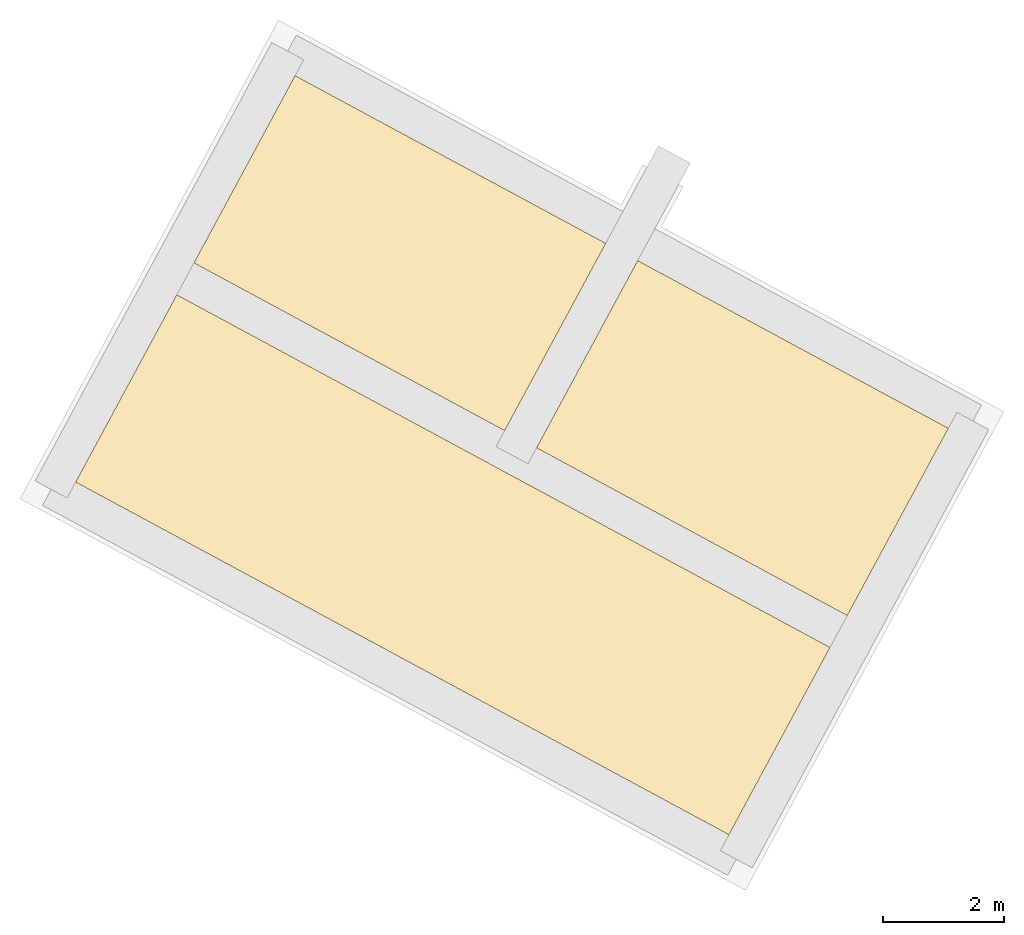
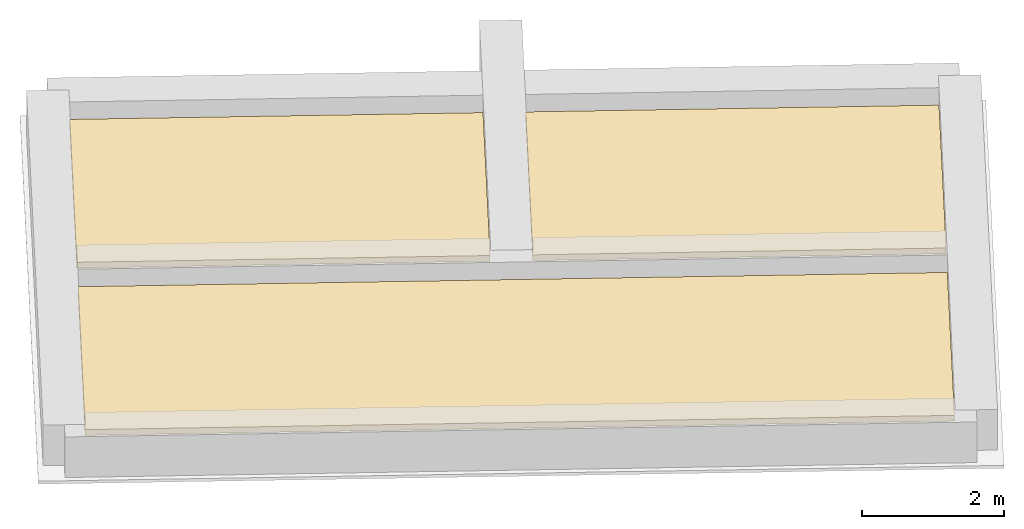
# One storey, part 2 of 2: 3 coverings.
"""IFC2X3 building model written with IfcOpenShell, lengths in metres."""

from ifc_helpers import new_model, entity, si_unit, converted_unit, derived_unit, money_unit, direction, frame, origin_with_axes, place, context, subcontext, project, spatial, polyline, outline, extrude, material, type_object, element, save


model = new_model("IFC2X3")

# Units and contexts
model_context = context("Model", 3, precision=1e-05, world=origin_with_axes(), true_north=direction((0.0, 1.0)))
body_context = subcontext(model_context, "Body", "Model", "MODEL_VIEW")
ifc_project = project(units=[si_unit("LENGTHUNIT", "METRE"), si_unit("AREAUNIT", "SQUARE_METRE"), si_unit("VOLUMEUNIT", "CUBIC_METRE"), converted_unit("PLANEANGLEUNIT", "DEGREE", entity("IfcPlaneAngleMeasure", 0.0174532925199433), si_unit("PLANEANGLEUNIT", "RADIAN"), dimensions=[0, 0, 0, 0, 0, 0, 0]), money_unit("EUR"), converted_unit("TIMEUNIT", "Year", entity("IfcTimeMeasure", 31556926.0), si_unit("TIMEUNIT", "SECOND"), dimensions=[0, 0, 1, 0, 0, 0, 0]), si_unit("MASSUNIT", "GRAM", prefix="KILO"), si_unit("THERMODYNAMICTEMPERATUREUNIT", "DEGREE_CELSIUS"), si_unit("LUMINOUSINTENSITYUNIT", "LUMEN"), si_unit("ENERGYUNIT", "JOULE", prefix="MEGA"), derived_unit("THERMALCONDUCTANCEUNIT", [(si_unit("POWERUNIT", "WATT"), 1), (si_unit("LENGTHUNIT", "METRE"), -1), (si_unit("THERMODYNAMICTEMPERATUREUNIT", "KELVIN"), -1)]), derived_unit("SPECIFICHEATCAPACITYUNIT", [(si_unit("ENERGYUNIT", "JOULE"), 1), (si_unit("MASSUNIT", "GRAM", prefix="KILO"), -1), (si_unit("THERMODYNAMICTEMPERATUREUNIT", "KELVIN"), -1)]), derived_unit("MASSDENSITYUNIT", [(si_unit("MASSUNIT", "GRAM", prefix="KILO"), 1), (si_unit("VOLUMEUNIT", "CUBIC_METRE"), -1)])], contexts=[model_context])

# Site, building, storey
site_placement = place(None, frame((-3.949935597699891, 1.740105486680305, 0.0), z_axis=(0.0, 0.0, 1.0), x_axis=(0.8799804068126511, -0.475009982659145, 0.0)))
site = spatial("IfcSite", under=ifc_project, at=site_placement, Name="Gelände", CompositionType="ELEMENT")
building_placement = place(site_placement, origin_with_axes())
building = spatial("IfcBuilding", under=site, at=building_placement, Name="Gebäude", CompositionType="ELEMENT")
storey_placement = place(building_placement, frame((0.0, 0.0, -3.68), z_axis=(0.0, 0.0, 1.0), x_axis=(1.0, 0.0, 0.0)))
storey = spatial("IfcBuildingStorey", under=building, at=storey_placement, Name="Gründung", CompositionType="ELEMENT", Elevation=-3.68)

# Coverings
ifc_material = material(Name="_SIWH - Dämmung, Perimeterdämmung")
covering_type = type_object("IfcCoveringType", Name="_SIWH - BO | Perimeterdämmung 10 | 10cm 100", PredefinedType="INSULATION")
covering_1_placement = place(storey_placement, frame((4.632528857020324, 15.22906061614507, 0.3999999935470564), z_axis=(0.0, 0.0, 1.0), x_axis=(1.0, 0.0, 0.0)))
element("IfcCovering", 1, at=covering_1_placement, inside=storey, type_object=covering_type, material=ifc_material, Name="Decke035", PredefinedType="INSULATION", context=body_context, shape_type="SweptSolid", body=[
    extrude(outline(polyline([(0.0, 0.0), (5.842477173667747, 0.0), (5.842477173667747, 3.521259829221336), (0.0, 3.521259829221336), (0.0, 0.0)])), frame((0.0, 0.0, -0.1), z_axis=(0.0, 0.0, 1.0), x_axis=(1.0, 0.0, 0.0)), (0.0, 0.0, 1.0), 0.1),
])
covering_2_placement = place(storey_placement, frame((11.0750060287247, 15.22906056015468, 0.3999999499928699), z_axis=(0.0, 0.0, 1.0), x_axis=(1.0, 0.0, 0.0)))
element("IfcCovering", 2, at=covering_2_placement, inside=storey, type_object=covering_type, material=ifc_material, Name="Decke034", PredefinedType="INSULATION", context=body_context, shape_type="SweptSolid", body=[
    extrude(outline(polyline([(0.0, 0.0), (5.842477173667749, 0.0), (5.842477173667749, 3.521259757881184), (0.0, 3.521259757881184), (0.0, 0.0)])), frame((0.0, 0.0, -0.1), z_axis=(0.0, 0.0, 1.0), x_axis=(1.0, 0.0, 0.0)), (0.0, 0.0, 1.0), 0.1),
])
covering_3_placement = place(storey_placement, frame((4.632528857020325, 11.1078007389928, 0.3999999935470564), z_axis=(0.0, 0.0, 1.0), x_axis=(1.0, 0.0, 0.0)))
element("IfcCovering", 3, at=covering_3_placement, inside=storey, type_object=covering_type, material=ifc_material, Name="Decke033", PredefinedType="INSULATION", context=body_context, shape_type="SweptSolid", body=[
    extrude(outline(polyline([(0.0, 0.0), (12.2849543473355, 0.0), (12.2849543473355, 3.521259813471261), (0.0, 3.521259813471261), (0.0, 0.0)])), frame((0.0, 0.0, -0.1), z_axis=(0.0, 0.0, 1.0), x_axis=(1.0, 0.0, 0.0)), (0.0, 0.0, 1.0), 0.1),
])

save(model, "model.ifc")
